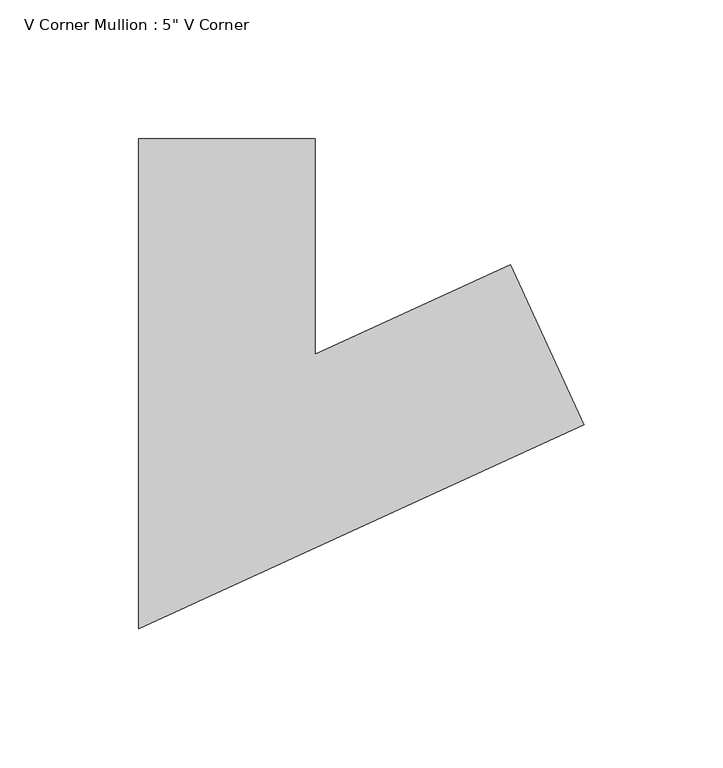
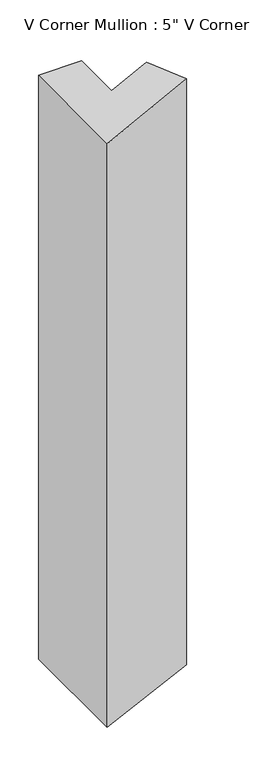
"""IFC4 building model written with IfcOpenShell, lengths in millimetres: member geometry."""

from ifc_helpers import new_model, si_unit, origin, place, context, project, spatial, faceted_brep, source, transform, mapped, element, save


def member_6fb3f5d3(model_context):
    return source(origin(), model_context, "Body", "Brep", [
        faceted_brep([(61.49523, 18.2208415, 0.4399418), (87.9205542, -39.5195451, 0.6289907), (87.9205542, -39.5195451, -920.0459066), (61.49523, 18.2208415, -919.6049175), (-9.0228811, -14.0523047, -0.0645504), (-9.0228811, -14.0523047, -918.4281026), (-9.0228811, 63.5, -0.0645504), (-9.0228811, 63.5, -918.4281026), (-72.5228811, 63.5, -0.5188345), (-72.5228811, 63.5, -917.3684068), (-72.5228811, -112.9476953, -0.5188345), (-72.5228811, -112.9476953, -917.3684068)], [[[0, 1, 2, 3]], [[4, 0, 3, 5]], [[6, 4, 5, 7]], [[8, 6, 7, 9]], [[10, 8, 9, 11]], [[1, 10, 11, 2]], [[1, 0, 4, 6, 8, 10]], [[2, 11, 9, 7, 5, 3]]]),
    ])


if __name__ == "__main__":
    model = new_model("IFC4")
    model_context = context("Model", 3, world=origin())
    ifc_project = project(units=[si_unit("LENGTHUNIT", "METRE", prefix="MILLI")], contexts=[model_context])
    site = spatial("IfcSite", under=ifc_project)
    building = spatial("IfcBuilding", under=site)
    placement = place(None, origin())
    member_shape = member_6fb3f5d3(model_context)
    element("IfcMember", 1, ObjectType="V Corner Mullion : 5\" V Corner", at=placement, inside=building, context=model_context, shape_type="MappedRepresentation", body=[
        mapped(member_shape, transform((0.0, 0.0, 0.0), x_axis=(1.0, 0.0, 0.0), y_axis=(0.0, 1.0, 0.0), z_axis=(0.0, 0.0, 1.0))),
    ])
    save(model, "model.ifc")
